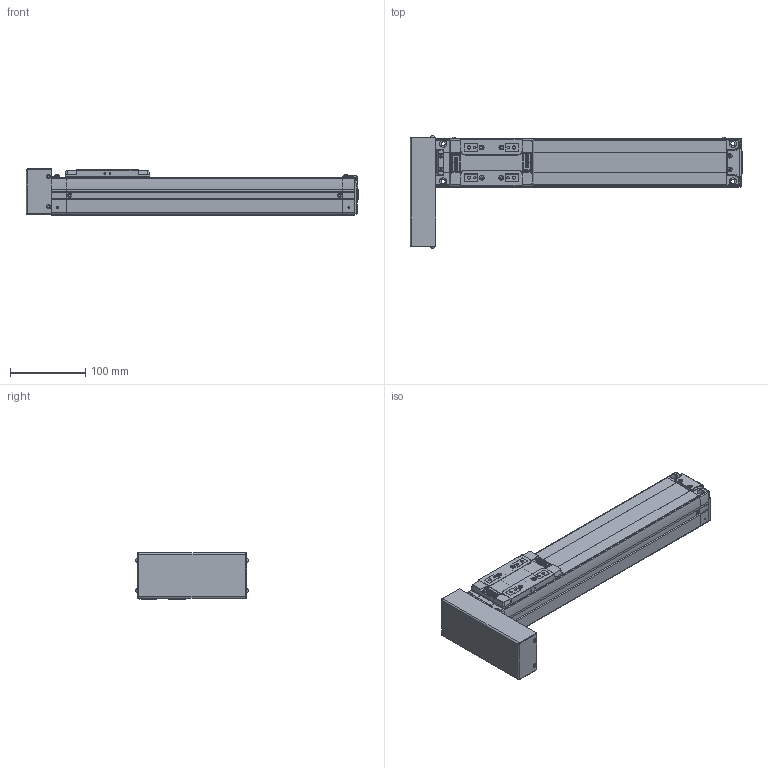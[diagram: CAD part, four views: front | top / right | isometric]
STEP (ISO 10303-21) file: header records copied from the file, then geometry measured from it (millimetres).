
FILE_DESCRIPTION(('STEP AP214'),'1');
FILE_NAME('Z:/Web/3D/SAN65/STP/SAN65ㅁㅁ-250PR.stp','2012-06-14T04:58:21',(' '),(' '),'Spatial InterOp 3D',' ',' ');
FILE_SCHEMA(('automotive_design'));
Length unit declared in the file: metre
Products named in the file (34): SAN65__-250; BODY-SAN65; REAR-SAN65; RRCV-SAN65; 스크루 : Round - M3.0 x 6.0; FRONT-SAN65; SHAFT-SAN65; RN8 x 0.75; SSFX-SAN65; SLIDE-SAN65; SLCV-SAN65; 스크루 : Countersunk - M3.0 x 6.0; ____204; PR; BTCV-SAN65; BHCS M3 X 6L
Assembly tree (33 placements, depth 4):
  ____204
    SAN65__-250
      BODY-SAN65
      REAR-SAN65
        REAR-SAN65
        RRCV-SAN65
        스크루 : Round - M3.0 x 6.0
        스크루 : Round - M3.0 x 6.0
        스크루 : Round - M3.0 x 6.0
        스크루 : Round - M3.0 x 6.0
        스크루 : Round - M3.0 x 6.0
        스크루 : Round - M3.0 x 6.0
      FRONT-SAN65
        FRONT-SAN65
        SHAFT-SAN65
        RN8 x 0.75
        SSFX-SAN65
        스크루 : Round - M3.0 x 6.0
        스크루 : Round - M3.0 x 6.0
        스크루 : Round - M3.0 x 6.0
        스크루 : Round - M3.0 x 6.0
      SLIDE-SAN65
        SLIDE-SAN65
        SLCV-SAN65
        스크루 : Countersunk - M3.0 x 6.0
        스크루 : Countersunk - M3.0 x 6.0
        스크루 : Countersunk - M3.0 x 6.0
        스크루 : Countersunk - M3.0 x 6.0
    PR
      BTCV-SAN65
      BHCS M3 X 6L
      BHCS M3 X 6L
      BHCS M3 X 6L
      BHCS M3 X 6L
Bounding box: 440.15 x 149.13 x 61 mm (x, y, z)
Volume: 1591014.2 mm3; surface area: 205706.2 mm2
Topology: 28 solids, 28 shells, 1456 faces, 3720 edges, 2418 vertices
Faces by surface type: plane 891, cylinder 414, cone 77, bspline 30, sphere 26, torus 15, extrusion 3
Full cylindrical faces by diameter (mm): 0.571 x2, 0.706 x1, 1.727 x2, 2.132 x1, 2.2 x4, 2.5 x9, 2.528 x4, 3 x6, 3.121 x2, 3.3 x4, 3.4 x8, 3.5 x6, 4.2 x24, 4.849 x4, 5 x3, 5.5 x4, 5.987 x2, 6 x6, 6.35 x1, 7 x1, 8 x4, 9.5 x4, 13 x1, 15 x1, 19 x1, 26 x1, 38.1 x1
Entity records: 59556 total; most frequent: CARTESIAN_POINT 12302, DIRECTION 7307, ORIENTED_EDGE 6892, EDGE_CURVE 3446, AXIS2_PLACEMENT_3D 2489, VERTEX_POINT 2368, VECTOR 2329, LINE 2326
